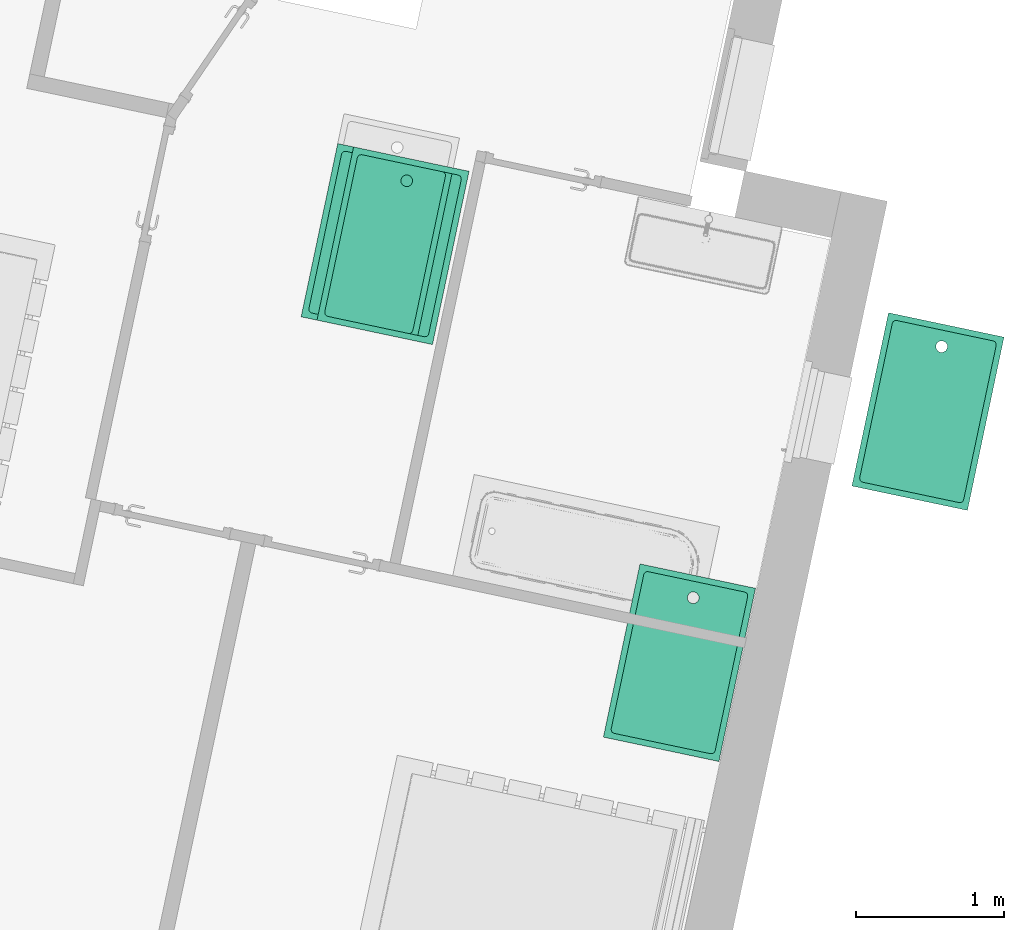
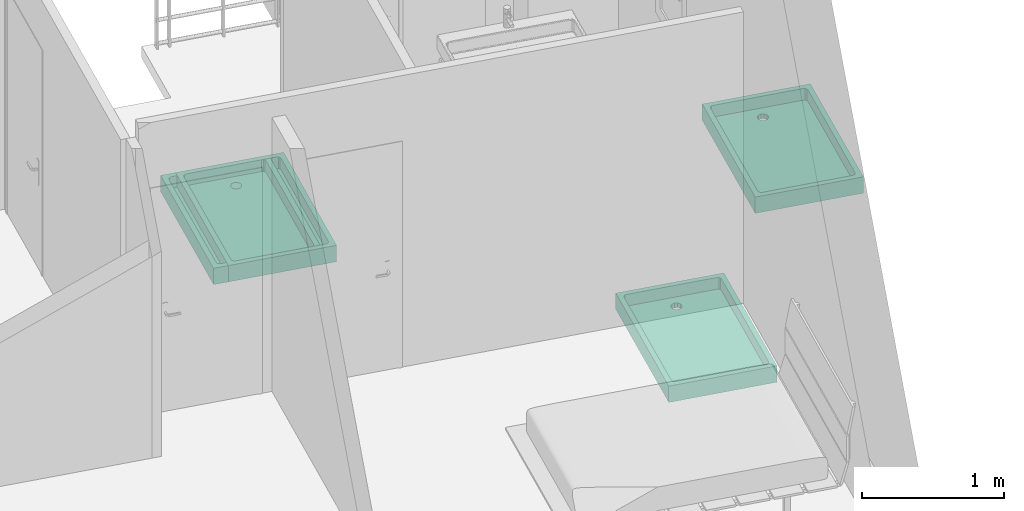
# One storey, part 15 of 18: 4 flow terminals.
"""IFC2X3 building model written with IfcOpenShell, lengths in metres."""

from ifc_helpers import new_model, entity, si_unit, converted_unit, derived_unit, direction, frame, origin, place, context, subcontext, project, spatial, faceted_brep, source, transform, mapped, material, element, save


model = new_model("IFC2X3")

# Units and contexts
model_context = context("Model", 3, precision=1e-05, world=origin(), true_north=direction((6.12303176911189e-17, 1.0)))
body_context = subcontext(model_context, "Body", "Model", "MODEL_VIEW")
ifc_project = project(units=[si_unit("LENGTHUNIT", "METRE"), si_unit("AREAUNIT", "SQUARE_METRE"), si_unit("VOLUMEUNIT", "CUBIC_METRE"), converted_unit("PLANEANGLEUNIT", "DEGREE", entity("IfcRatioMeasure", 0.0174532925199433), si_unit("PLANEANGLEUNIT", "RADIAN"), dimensions=[0, 0, 0, 0, 0, 0, 0]), si_unit("MASSUNIT", "GRAM", prefix="KILO"), derived_unit("MASSDENSITYUNIT", [(si_unit("MASSUNIT", "GRAM", prefix="KILO"), 1), (si_unit("LENGTHUNIT", "METRE"), -3)]), si_unit("TIMEUNIT", "SECOND"), si_unit("FREQUENCYUNIT", "HERTZ"), si_unit("THERMODYNAMICTEMPERATUREUNIT", "DEGREE_CELSIUS"), derived_unit("THERMALTRANSMITTANCEUNIT", [(si_unit("MASSUNIT", "GRAM", prefix="KILO"), 1), (si_unit("THERMODYNAMICTEMPERATUREUNIT", "KELVIN"), -1), (si_unit("TIMEUNIT", "SECOND"), -3)]), derived_unit("VOLUMETRICFLOWRATEUNIT", [(si_unit("LENGTHUNIT", "METRE"), 3), (si_unit("TIMEUNIT", "SECOND"), -1)]), si_unit("ELECTRICCURRENTUNIT", "AMPERE"), si_unit("ELECTRICVOLTAGEUNIT", "VOLT"), si_unit("POWERUNIT", "WATT"), si_unit("FORCEUNIT", "NEWTON", prefix="KILO"), si_unit("ILLUMINANCEUNIT", "LUX"), si_unit("LUMINOUSFLUXUNIT", "LUMEN"), si_unit("LUMINOUSINTENSITYUNIT", "CANDELA"), derived_unit("USERDEFINED", [(si_unit("MASSUNIT", "GRAM", prefix="KILO"), -1), (si_unit("LENGTHUNIT", "METRE"), -2), (si_unit("TIMEUNIT", "SECOND"), 3), (si_unit("LUMINOUSFLUXUNIT", "LUMEN"), 1)]), derived_unit("LINEARVELOCITYUNIT", [(si_unit("LENGTHUNIT", "METRE"), 1), (si_unit("TIMEUNIT", "SECOND"), -1)]), si_unit("PRESSUREUNIT", "PASCAL"), derived_unit("USERDEFINED", [(si_unit("LENGTHUNIT", "METRE"), -2), (si_unit("MASSUNIT", "GRAM", prefix="KILO"), 1), (si_unit("TIMEUNIT", "SECOND"), -2)])], contexts=[model_context])

# Site, building, storey, space
site_placement = place(None, origin())
site = spatial("IfcSite", under=ifc_project, at=site_placement, Name="Default", CompositionType="ELEMENT")
building_placement = place(site_placement, origin())
building = spatial("IfcBuilding", under=site, at=building_placement, CompositionType="ELEMENT")
storey_placement = place(building_placement, frame((0.0, 0.0, 2.8)))
storey = spatial("IfcBuildingStorey", under=building, at=storey_placement, Name="ETAGE", CompositionType="ELEMENT", Elevation=2.8)
space_1_placement = place(storey_placement, origin())
space_1 = spatial("IfcSpace", under=storey, at=space_1_placement, Name="645", CompositionType="ELEMENT", InteriorOrExteriorSpace="INTERNAL")

# Flow terminals
ifc_material = material(Name="Blanc - Element de salle de bains")
shared_shape = source(origin(), body_context, "Body", "Brep", [
    faceted_brep([(0.4, 0.600000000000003, 0.139999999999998), (0.360000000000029, 0.53460000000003, 0.139999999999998), (0.360000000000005, -0.534599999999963, 0.139999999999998), (0.4, -0.599999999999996, 0.139999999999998), (0.358298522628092, 0.54095000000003, 0.139999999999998), (0.356597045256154, 0.54730000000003, 0.139999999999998), (0.351948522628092, 0.551948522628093, 0.139999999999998), (0.347300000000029, 0.556597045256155, 0.139999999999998), (0.342049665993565, 0.558003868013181, 0.139999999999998), (0.334600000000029, 0.56000000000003, 0.139999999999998), (-0.334600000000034, 0.56000000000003, 0.139999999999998), (-0.4, 0.600000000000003, 0.139999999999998), (-0.340950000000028, 0.558298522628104, 0.139999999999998), (-0.347300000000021, 0.556597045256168, 0.139999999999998), (-0.351948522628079, 0.55194852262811, 0.139999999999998), (-0.356597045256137, 0.547300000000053, 0.139999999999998), (-0.358003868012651, 0.542049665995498, 0.139999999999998), (-0.360000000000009, 0.534600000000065, 0.139999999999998), (-0.359999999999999, -0.534599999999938, 0.139999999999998), (-0.4, -0.599999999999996, 0.139999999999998), (-0.334599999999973, -0.559999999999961, 0.139999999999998), (-0.342049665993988, -0.558003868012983, 0.139999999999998), (-0.347299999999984, -0.556597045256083, 0.139999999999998), (-0.351948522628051, -0.551948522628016, 0.139999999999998), (-0.358298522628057, -0.540949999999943, 0.139999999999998), (-0.356597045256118, -0.547299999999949, 0.139999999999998), (0.358003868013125, -0.542049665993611, 0.139999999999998), (0.356597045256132, -0.547299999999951, 0.139999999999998), (0.351948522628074, -0.55194852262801, 0.139999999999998), (0.347300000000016, -0.556597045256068, 0.139999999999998), (0.340950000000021, -0.558298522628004, 0.139999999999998), (0.334600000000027, -0.559999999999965, 0.139999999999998), (-0.4, 0.600000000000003, 0.0), (-0.0346410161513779, -0.429999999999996, 0.0), (-0.4, -0.599999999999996, 0.0), (-0.0273205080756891, -0.422679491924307, 0.0), (-0.0200000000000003, -0.415358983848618, 0.0), (-0.0100000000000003, -0.412679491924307, 0.0), (0.0, -0.409999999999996, 0.0), (0.4, 0.600000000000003, 0.0), (0.00999999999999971, -0.412679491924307, 0.0), (0.0199999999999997, -0.415358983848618, 0.0), (0.0273205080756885, -0.422679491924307, 0.0), (0.0346410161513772, -0.429999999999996, 0.0), (0.4, -0.599999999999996, 0.0), (0.0, -0.489999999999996, 0.0), (0.00999999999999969, -0.487320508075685, 0.0), (0.0373205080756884, -0.439999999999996, 0.0), (0.0399999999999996, -0.449999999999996, 0.0), (0.0199999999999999, -0.484641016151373, 0.0), (0.0273205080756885, -0.477320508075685, 0.0), (0.0346410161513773, -0.469999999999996, 0.0), (0.0373205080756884, -0.459999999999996, 0.0), (-0.0373205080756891, -0.439999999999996, 0.0), (-0.0400000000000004, -0.449999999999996, 0.0), (-0.0373205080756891, -0.459999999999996, 0.0), (-0.0346410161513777, -0.469999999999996, 0.0), (-0.027320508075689, -0.477320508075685, 0.0), (-0.0200000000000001, -0.484641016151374, 0.0), (-0.0100000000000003, -0.487320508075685, 0.0), (0.34095000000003, 0.558298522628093, 0.0399999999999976), (0.356597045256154, 0.54730000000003, 0.0399999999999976), (0.351948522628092, 0.551948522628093, 0.0399999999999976), (0.33460000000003, 0.56000000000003, 0.0399999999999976), (0.34730000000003, 0.556597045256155, 0.0399999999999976), (0.358003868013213, 0.542049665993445, 0.0399999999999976), (0.36000000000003, 0.53460000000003, 0.0399999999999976), (-0.334600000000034, 0.56000000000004, 0.0399999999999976), (-0.360000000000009, 0.534600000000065, 0.0399999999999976), (-0.358298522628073, 0.540950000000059, 0.0399999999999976), (-0.356597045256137, 0.547300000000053, 0.0399999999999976), (-0.342049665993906, 0.5580038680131, 0.0399999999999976), (-0.351948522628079, 0.55194852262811, 0.0399999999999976), (-0.347300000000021, 0.556597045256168, 0.0399999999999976), (0.0, -0.409999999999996, 0.0399999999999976), (-0.0100000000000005, -0.412679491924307, 0.0399999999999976), (-0.0200000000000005, -0.415358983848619, 0.0399999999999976), (-0.359999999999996, -0.534599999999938, 0.0399999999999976), (-0.0273205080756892, -0.422679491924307, 0.0399999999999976), (-0.034641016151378, -0.429999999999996, 0.0399999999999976), (-0.0375344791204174, -0.44079855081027, 0.0399999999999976), (-0.0400000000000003, -0.449999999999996, 0.0399999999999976), (-0.334599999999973, -0.559999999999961, 0.0399999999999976), (-0.358003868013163, -0.542049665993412, 0.0399999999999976), (-0.356597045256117, -0.547299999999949, 0.0399999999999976), (-0.340949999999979, -0.558298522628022, 0.0399999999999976), (-0.351948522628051, -0.551948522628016, 0.0399999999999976), (-0.347299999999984, -0.556597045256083, 0.0399999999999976), (-0.0375344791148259, -0.459201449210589, 0.0399999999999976), (-0.034641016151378, -0.469999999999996, 0.0399999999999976), (-0.0273205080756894, -0.477320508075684, 0.0399999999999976), (-0.0200000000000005, -0.484641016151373, 0.0399999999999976), (-0.0100000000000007, -0.487320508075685, 0.0399999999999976), (0.0, -0.489999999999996, 0.0399999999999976), (0.334600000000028, -0.55999999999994, 0.0399999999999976), (0.00999999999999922, -0.487320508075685, 0.0399999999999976), (0.0199999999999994, -0.484641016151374, 0.0399999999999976), (0.0273205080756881, -0.477320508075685, 0.0399999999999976), (0.0346410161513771, -0.469999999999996, 0.0399999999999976), (0.0375344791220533, -0.459201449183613, 0.0399999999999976), (0.0399999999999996, -0.449999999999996, 0.0399999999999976), (0.360000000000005, -0.534599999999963, 0.0399999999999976), (0.358298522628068, -0.540949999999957, 0.0399999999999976), (0.356597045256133, -0.547299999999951, 0.0399999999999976), (0.351948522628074, -0.551948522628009, 0.0399999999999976), (0.342049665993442, -0.558003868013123, 0.0399999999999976), (0.347300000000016, -0.556597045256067, 0.0399999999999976), (0.0199999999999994, -0.415358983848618, 0.0399999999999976), (0.0273205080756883, -0.422679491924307, 0.0399999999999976), (0.0375344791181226, -0.440798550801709, 0.0399999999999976), (0.0346410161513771, -0.429999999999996, 0.0399999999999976), (0.00999999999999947, -0.412679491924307, 0.0399999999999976)], [[[0, 1, 2]], [[2, 3, 0]], [[0, 4, 1]], [[0, 5, 4]], [[0, 6, 5]], [[0, 7, 6]], [[0, 8, 7]], [[0, 9, 8]], [[0, 10, 9]], [[10, 0, 11]], [[11, 12, 10]], [[11, 13, 12]], [[11, 14, 13]], [[11, 15, 14]], [[11, 16, 15]], [[11, 17, 16]], [[17, 11, 18]], [[19, 18, 11]], [[20, 19, 3]], [[19, 20, 21]], [[19, 21, 22]], [[19, 22, 23]], [[19, 24, 18]], [[19, 25, 24]], [[19, 23, 25]], [[3, 2, 26]], [[3, 26, 27]], [[3, 27, 28]], [[3, 28, 29]], [[3, 29, 30]], [[3, 30, 31]], [[3, 31, 20]], [[32, 33, 34]], [[32, 35, 33]], [[32, 36, 35]], [[32, 37, 36]], [[32, 38, 37]], [[32, 39, 38]], [[39, 40, 38]], [[39, 41, 40]], [[39, 42, 41]], [[39, 43, 42]], [[44, 43, 39]], [[45, 44, 34]], [[44, 45, 46]], [[44, 47, 43]], [[44, 48, 47]], [[44, 46, 49]], [[44, 49, 50]], [[44, 50, 51]], [[44, 51, 52]], [[44, 52, 48]], [[34, 33, 53]], [[34, 53, 54]], [[34, 54, 55]], [[34, 55, 56]], [[34, 56, 57]], [[34, 57, 58]], [[34, 58, 59]], [[34, 59, 45]], [[11, 0, 39, 32]], [[19, 11, 32, 34]], [[3, 19, 34, 44]], [[0, 3, 44, 39]], [[60, 61, 62]], [[61, 60, 63]], [[60, 62, 64]], [[63, 65, 61]], [[63, 66, 65]], [[67, 66, 63]], [[66, 67, 68]], [[67, 69, 68]], [[67, 70, 69]], [[70, 67, 71]], [[71, 72, 70]], [[71, 73, 72]], [[68, 74, 66]], [[68, 75, 74]], [[68, 76, 75]], [[68, 77, 76]], [[77, 78, 76]], [[77, 79, 78]], [[77, 80, 79]], [[77, 81, 80]], [[81, 77, 82]], [[82, 77, 83]], [[82, 83, 84]], [[84, 85, 82]], [[85, 84, 86]], [[85, 86, 87]], [[82, 88, 81]], [[82, 89, 88]], [[82, 90, 89]], [[82, 91, 90]], [[82, 92, 91]], [[82, 93, 92]], [[82, 94, 93]], [[94, 95, 93]], [[94, 96, 95]], [[94, 97, 96]], [[94, 98, 97]], [[94, 99, 98]], [[94, 100, 99]], [[94, 101, 100]], [[94, 102, 101]], [[94, 103, 102]], [[94, 104, 103]], [[104, 94, 105]], [[104, 105, 106]], [[107, 101, 66]], [[101, 107, 108]], [[101, 109, 100]], [[101, 110, 109]], [[101, 108, 110]], [[66, 74, 111]], [[66, 111, 107]], [[106, 105, 94, 31, 30, 29]], [[103, 104, 106, 29, 28, 27]], [[2, 101, 102, 103, 27, 26]], [[101, 2, 1, 66]], [[61, 65, 66, 1, 4, 5]], [[64, 62, 61, 5, 6, 7]], [[9, 63, 60, 64, 7, 8]], [[63, 9, 10, 67]], [[73, 71, 67, 10, 12, 13]], [[70, 72, 73, 13, 14, 15]], [[17, 68, 69, 70, 15, 16]], [[68, 17, 18, 77]], [[84, 83, 77, 18, 24, 25]], [[87, 86, 84, 25, 23, 22]], [[20, 82, 85, 87, 22, 21]], [[82, 20, 31, 94]], [[56, 55, 54, 81, 88, 89]], [[97, 98, 51, 50, 49, 96]], [[91, 58, 57, 56, 89, 90]], [[92, 93, 45, 59, 58, 91]], [[99, 100, 48, 52, 51, 98]], [[46, 45, 93, 95, 96, 49]], [[43, 47, 48, 100, 109, 110]], [[78, 79, 33, 35, 36, 76]], [[107, 41, 42, 43, 110, 108]], [[40, 41, 107, 111, 74, 38]], [[80, 81, 54, 53, 33, 79]], [[37, 38, 74, 75, 76, 36]]]),
])
for number, where, z_axis, x_axis in (
    (1, (-13.4179313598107, 81.1316431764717, 0.0), (0.0, 0.0, 1.0), (-0.978437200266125, 0.206544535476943, 0.0)),
    (2, (-13.5253377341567, 81.1543162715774, 0.0), (0.0, 0.0, 1.0), (-0.978437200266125, 0.206544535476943, 0.0)),
):
    element("IfcFlowTerminal", number, at=place(space_1_placement, frame(where, z_axis=z_axis, x_axis=x_axis)), inside=space_1, material=ifc_material, Name="FR_Bac à douches - Vidange Axée:80 x 120", ObjectType="FR_Bac à douches - Vidange Axée:80 x 120", context=body_context, shape_type="MappedRepresentation", body=[
        mapped(shared_shape, transform((0.0, 0.0, 0.0), scale=1.0)),
    ])

# Space
space_2_placement = place(storey_placement, origin())
space_2 = spatial("IfcSpace", under=storey, at=space_2_placement, Name="649", CompositionType="ELEMENT", InteriorOrExteriorSpace="INTERNAL")

# Flow terminal
flow_terminal_1_placement = place(space_2_placement, frame((-9.79217073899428, 80.007709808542, 0.0), z_axis=(0.0, 0.0, 1.0), x_axis=(-0.978437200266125, 0.206544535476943, 0.0)))
element("IfcFlowTerminal", 3, at=flow_terminal_1_placement, inside=space_2, material=ifc_material, Name="FR_Bac à douches - Vidange Axée:80 x 120", ObjectType="FR_Bac à douches - Vidange Axée:80 x 120", context=body_context, shape_type="MappedRepresentation", body=[
    mapped(shared_shape, transform((0.0, 0.0, 0.0), scale=1.0)),
])

# Space
space_3_placement = place(storey_placement, origin())
space_3 = spatial("IfcSpace", under=storey, at=space_3_placement, Name="639", CompositionType="ELEMENT", InteriorOrExteriorSpace="INTERNAL")

# Flow terminal
flow_terminal_2_placement = place(space_3_placement, frame((-11.4765666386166, 78.3055231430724, 0.0), z_axis=(0.0, 0.0, 1.0), x_axis=(-0.978437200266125, 0.206544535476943, 0.0)))
element("IfcFlowTerminal", 4, at=flow_terminal_2_placement, inside=space_3, material=ifc_material, Name="FR_Bac à douches - Vidange Axée:80 x 120", ObjectType="FR_Bac à douches - Vidange Axée:80 x 120", context=body_context, shape_type="MappedRepresentation", body=[
    mapped(shared_shape, transform((0.0, 0.0, 0.0), scale=1.0)),
])

save(model, "model.ifc")
